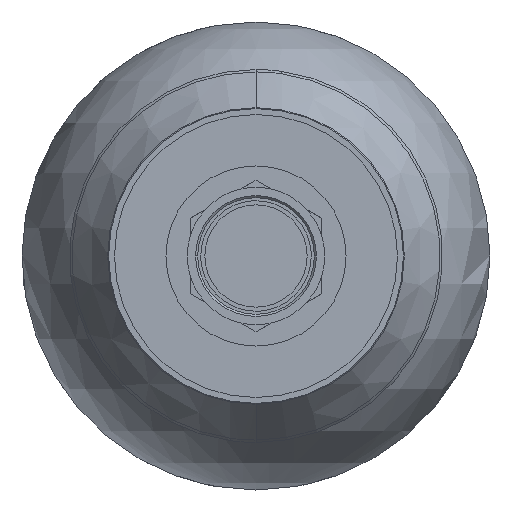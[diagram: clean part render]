
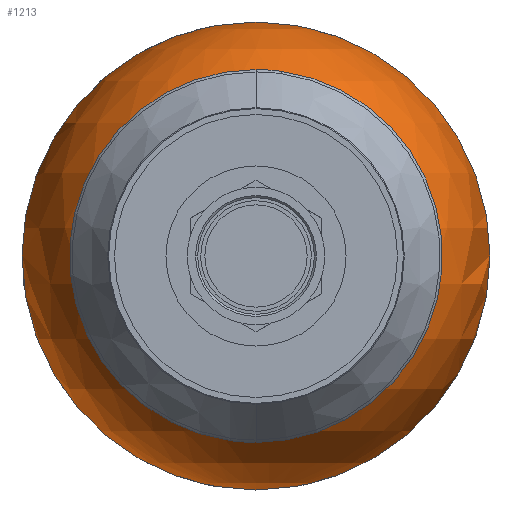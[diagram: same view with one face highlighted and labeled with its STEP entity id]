
A CAD part, front view. The second image highlights one B-rep face of the part: STEP entity #1213.
In plain terms, the highlighted spherical face has radius 57.15 mm.
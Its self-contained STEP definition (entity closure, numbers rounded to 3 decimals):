
#673=CARTESIAN_POINT('',(-140.659,63.5,0.0));
#674=VERTEX_POINT('',#673);
#699=CARTESIAN_POINT('',(-140.659,-50.8,0.));
#700=VERTEX_POINT('',#699);
#707=CARTESIAN_POINT('',(-140.659,6.35,0.0));
#708=DIRECTION('',(1.0,0.0,0.0));
#709=DIRECTION('',(0.0,1.0,0.0));
#710=AXIS2_PLACEMENT_3D('',#707,#708,#709);
#711=CIRCLE('',#710,57.15);
#712=EDGE_CURVE('',#700,#674,#711,.T.);
#1060=CARTESIAN_POINT('',(-140.659,6.35,0.0));
#1061=DIRECTION('',(1.0,0.0,0.0));
#1062=DIRECTION('',(0.0,1.0,0.0));
#1063=AXIS2_PLACEMENT_3D('',#1060,#1061,#1062);
#1064=CIRCLE('',#1063,57.15);
#1065=EDGE_CURVE('',#674,#700,#1064,.T.);
#1185=CARTESIAN_POINT('',(-193.405,28.35,0.0));
#1186=VERTEX_POINT('',#1185);
#1187=CARTESIAN_POINT('',(-193.405,6.35,0.0));
#1188=DIRECTION('',(1.0,0.0,0.0));
#1189=DIRECTION('',(0.0,1.0,0.0));
#1190=AXIS2_PLACEMENT_3D('',#1187,#1188,#1189);
#1191=CIRCLE('',#1190,22.);
#1192=EDGE_CURVE('',#1186,#1186,#1191,.T.);
#1201=CARTESIAN_POINT('',(-140.659,6.35,0.0));
#1202=DIRECTION('',(0.0,0.0,1.0));
#1203=DIRECTION('',(1.0,0.0,0.0));
#1204=AXIS2_PLACEMENT_3D('',#1201,#1202,#1203);
#1205=SPHERICAL_SURFACE('',#1204,57.15);
#1206=ORIENTED_EDGE('',*,*,#712,.F.);
#1207=ORIENTED_EDGE('',*,*,#1065,.F.);
#1208=EDGE_LOOP('',(#1206,#1207));
#1209=FACE_OUTER_BOUND('',#1208,.T.);
#1210=ORIENTED_EDGE('',*,*,#1192,.T.);
#1211=EDGE_LOOP('',(#1210));
#1212=FACE_BOUND('',#1211,.T.);
#1213=ADVANCED_FACE('',(#1209,#1212),#1205,.T.);
